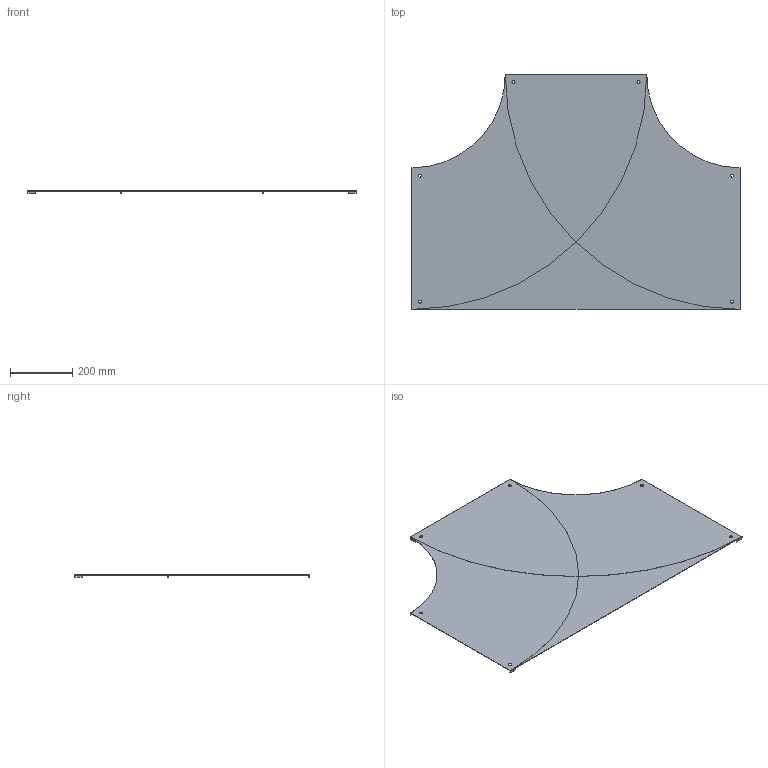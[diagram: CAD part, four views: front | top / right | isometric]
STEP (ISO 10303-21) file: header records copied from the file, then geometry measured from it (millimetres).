
FILE_DESCRIPTION(/* description */ ('','CAx-IF Rec.Pracs.---Representation and Presentation of Product Manufacturing Information (PMI)---4.0---2014-10-13'),/* implementation_level */ '2;1');
FILE_NAME(/* name */ 'Eurostrut_EETC400-300_Cover T-Piece for Cable Ladder ECL.step',/* time_stamp */ '2026-09-10T09:51:01+02:00',/* author */ (''),/* organization */ (''),/* preprocessor_version */ 'ST-DEVELOPER v20.1',/* originating_system */ 'Autodesk Revit 2027 27.2.0.39',/* authorisation */ '');
FILE_SCHEMA (('AP242_MANAGED_MODEL_BASED_3D_ENGINEERING_MIM_LF { 1 0 10303 442 2 1 4 }'));
Length unit declared in the file: millimetre
Products named in the file (7): TopLevelAssembly; Extrusion; Joined Solid Geometry; Joined Solid Geometry_1; Joined Solid Geometry_2; Joined Solid Geometry_3; Joined Solid Geometry_4
Assembly tree (6 placements, depth 2):
  TopLevelAssembly
    Extrusion
    Joined Solid Geometry
    Joined Solid Geometry_1
    Joined Solid Geometry_2
    Joined Solid Geometry_3
    Joined Solid Geometry_4
Bounding box: 1050 x 751.5 x 9 mm (x, y, z)
Volume: 2094433.7 mm3; surface area: 2806509.6 mm2
Topology: 9 solids, 9 shells, 84 faces, 198 edges, 132 vertices
Faces by surface type: plane 42, cylinder 42
Entity records: 2630 total; most frequent: DIRECTION 476, CARTESIAN_POINT 427, ORIENTED_EDGE 396, EDGE_CURVE 198, AXIS2_PLACEMENT_3D 181, VERTEX_POINT 132, LINE 114, VECTOR 114
